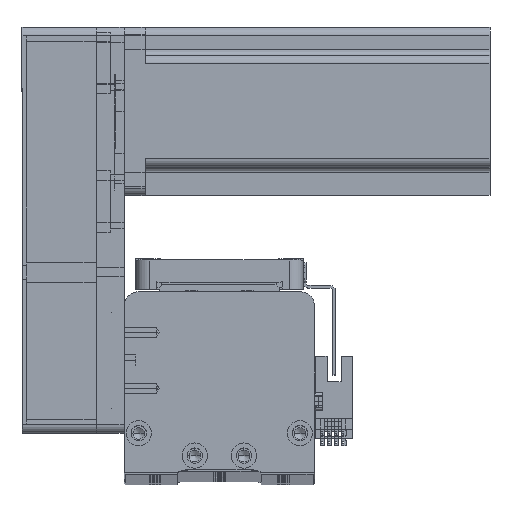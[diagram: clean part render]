
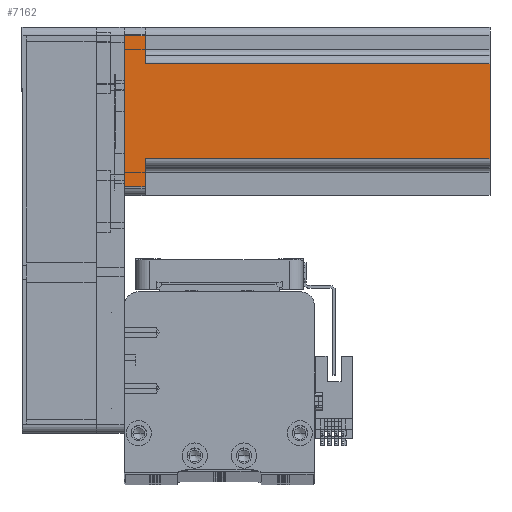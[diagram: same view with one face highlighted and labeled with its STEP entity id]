
A CAD part, top view. The second image highlights one B-rep face of the part: STEP entity #7162.
In plain terms, the highlighted planar face has unit normal (0, 0, 1) as drawn and (0, 1, 0) by its records, which use the part's own axes.
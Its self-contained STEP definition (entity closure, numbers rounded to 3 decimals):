
#1352 = ORIENTED_EDGE ( 'NONE', *, *, #8497, .T. ) ;
#1542 = CARTESIAN_POINT ( 'NONE',  ( 17., 30., 7.5 ) ) ;
#1991 = VECTOR ( 'NONE', #16156, 1000. ) ;
#2161 = ORIENTED_EDGE ( 'NONE', *, *, #33272, .T. ) ;
#2801 = CARTESIAN_POINT ( 'NONE',  ( 27., 30., 0. ) ) ;
#3447 = CARTESIAN_POINT ( 'NONE',  ( -17., 30., 130.7 ) ) ;
#4010 = VECTOR ( 'NONE', #57829, 1000. ) ;
#5765 = EDGE_CURVE ( 'NONE', #7345, #33277, #39644, .T. ) ;
#6949 = DIRECTION ( 'NONE',  ( 1., 0., 0. ) ) ;
#7162 = ADVANCED_FACE ( 'NONE', ( #7968 ), #10532, .F. ) ;
#7187 = VERTEX_POINT ( 'NONE', #19684 ) ;
#7345 = VERTEX_POINT ( 'NONE', #55923 ) ;
#7566 = VECTOR ( 'NONE', #34977, 1000. ) ;
#7968 = FACE_OUTER_BOUND ( 'NONE', #21669, .T. ) ;
#8232 = CARTESIAN_POINT ( 'NONE',  ( 30., 30., 0. ) ) ;
#8260 = CARTESIAN_POINT ( 'NONE',  ( 17., 30., 130.7 ) ) ;
#8497 = EDGE_CURVE ( 'NONE', #33277, #29546, #42176, .T. ) ;
#10432 = AXIS2_PLACEMENT_3D ( 'NONE', #10728, #41909, #15202 ) ;
#10532 = PLANE ( 'NONE',  #10432 ) ;
#10728 = CARTESIAN_POINT ( 'NONE',  ( 30., 30., 130.7 ) ) ;
#11417 = LINE ( 'NONE', #3447, #47042 ) ;
#12738 = DIRECTION ( 'NONE',  ( -1., 0., 0. ) ) ;
#15202 = DIRECTION ( 'NONE',  ( 1., 0., 0. ) ) ;
#15350 = LINE ( 'NONE', #29630, #1991 ) ;
#15631 = DIRECTION ( 'NONE',  ( -1., 0., 0. ) ) ;
#15758 = ORIENTED_EDGE ( 'NONE', *, *, #52592, .T. ) ;
#16156 = DIRECTION ( 'NONE',  ( -1., 0., 0. ) ) ;
#17098 = VERTEX_POINT ( 'NONE', #40907 ) ;
#18447 = VECTOR ( 'NONE', #6949, 1000. ) ;
#19363 = EDGE_CURVE ( 'NONE', #29970, #48070, #46206, .T. ) ;
#19684 = CARTESIAN_POINT ( 'NONE',  ( -17., 30., 130.7 ) ) ;
#21094 = VECTOR ( 'NONE', #15631, 1000. ) ;
#21669 = EDGE_LOOP ( 'NONE', ( #1352, #2161, #25323, #15758, #52410, #28402, #32244, #33818 ) ) ;
#21725 = LINE ( 'NONE', #8232, #54577 ) ;
#25323 = ORIENTED_EDGE ( 'NONE', *, *, #37477, .F. ) ;
#26351 = CARTESIAN_POINT ( 'NONE',  ( 27., 30., 130.7 ) ) ;
#27572 = VECTOR ( 'NONE', #35321, 1000. ) ;
#28402 = ORIENTED_EDGE ( 'NONE', *, *, #41124, .T. ) ;
#29215 = CARTESIAN_POINT ( 'NONE',  ( -20., 30., 7.5 ) ) ;
#29358 = VERTEX_POINT ( 'NONE', #2801 ) ;
#29484 = EDGE_CURVE ( 'NONE', #29358, #7345, #21725, .T. ) ;
#29546 = VERTEX_POINT ( 'NONE', #53152 ) ;
#29630 = CARTESIAN_POINT ( 'NONE',  ( 30., 30., 130.7 ) ) ;
#29970 = VERTEX_POINT ( 'NONE', #39582 ) ;
#31316 = LINE ( 'NONE', #8260, #7566 ) ;
#32244 = ORIENTED_EDGE ( 'NONE', *, *, #29484, .T. ) ;
#33272 = EDGE_CURVE ( 'NONE', #29546, #7187, #11417, .T. ) ;
#33277 = VERTEX_POINT ( 'NONE', #48169 ) ;
#33363 = CARTESIAN_POINT ( 'NONE',  ( 20., 30., 7.5 ) ) ;
#33818 = ORIENTED_EDGE ( 'NONE', *, *, #5765, .T. ) ;
#34977 = DIRECTION ( 'NONE',  ( 0., 0., -1. ) ) ;
#35138 = CARTESIAN_POINT ( 'NONE',  ( -27., 30., 130.7 ) ) ;
#35321 = DIRECTION ( 'NONE',  ( 0., 0., -1. ) ) ;
#37477 = EDGE_CURVE ( 'NONE', #17098, #7187, #15350, .T. ) ;
#39181 = DIRECTION ( 'NONE',  ( 0., 0., 1. ) ) ;
#39582 = CARTESIAN_POINT ( 'NONE',  ( 27., 30., 7.5 ) ) ;
#39644 = LINE ( 'NONE', #35138, #4010 ) ;
#40907 = CARTESIAN_POINT ( 'NONE',  ( 17., 30., 130.7 ) ) ;
#41124 = EDGE_CURVE ( 'NONE', #29970, #29358, #51375, .T. ) ;
#41909 = DIRECTION ( 'NONE',  ( 0., -1., 0. ) ) ;
#42176 = LINE ( 'NONE', #29215, #18447 ) ;
#46206 = LINE ( 'NONE', #33363, #21094 ) ;
#47042 = VECTOR ( 'NONE', #39181, 1000. ) ;
#48070 = VERTEX_POINT ( 'NONE', #1542 ) ;
#48169 = CARTESIAN_POINT ( 'NONE',  ( -27., 30., 7.5 ) ) ;
#51375 = LINE ( 'NONE', #26351, #27572 ) ;
#52410 = ORIENTED_EDGE ( 'NONE', *, *, #19363, .F. ) ;
#52592 = EDGE_CURVE ( 'NONE', #17098, #48070, #31316, .T. ) ;
#53152 = CARTESIAN_POINT ( 'NONE',  ( -17., 30., 7.5 ) ) ;
#54577 = VECTOR ( 'NONE', #12738, 1000. ) ;
#55923 = CARTESIAN_POINT ( 'NONE',  ( -27., 30., 0. ) ) ;
#57829 = DIRECTION ( 'NONE',  ( 0., 0., 1. ) ) ;
